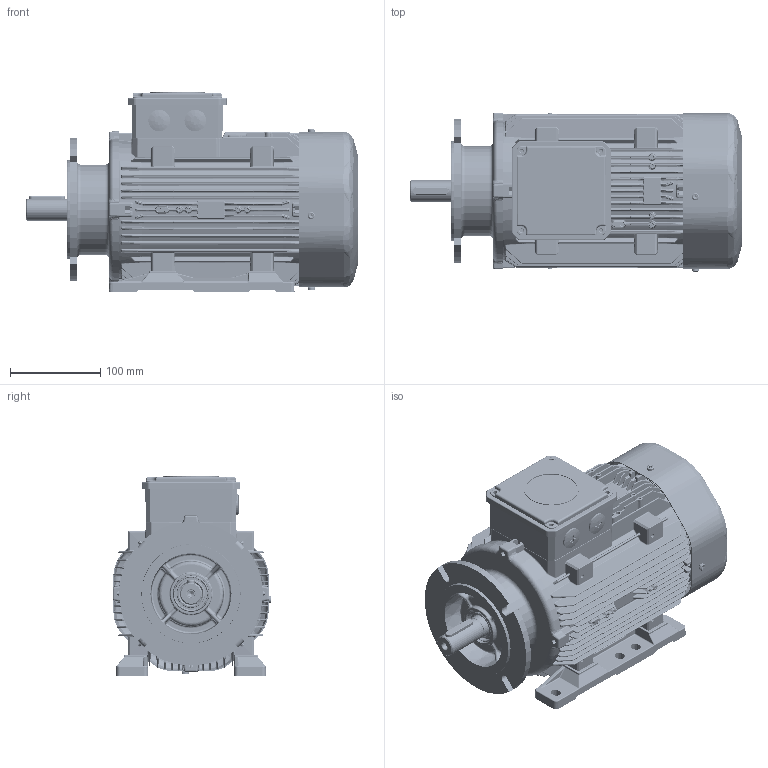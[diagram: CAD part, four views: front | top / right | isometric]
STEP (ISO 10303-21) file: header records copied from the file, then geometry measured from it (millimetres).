
FILE_DESCRIPTION(/* description */ (''),/* implementation_level */ '2;1');
FILE_NAME(/* name */ 'OUTLOOK VIEW QH90 PA B35 - REDUCED FF130 SPL.stp',/* time_stamp */ '2021-09-21T14:21:18+03:00',/* author */ (''),/* organization */ (''),/* preprocessor_version */ 'ST-DEVELOPER v16',/* originating_system */ 'SIEMENS PLM Software NX 11.0',/* authorisation */ '');
FILE_SCHEMA (('AUTOMOTIVE_DESIGN { 1 0 10303 214 3 1 1 1 }'));
Products named in the file (1): 260652D491E0rwly
Bounding box: 367.71 x 176.1 x 221.3 mm (x, y, z)
Volume: 1769564 mm3; surface area: 1025305.7 mm2
Topology: 41 solids, 50 shells, 11047 faces, 26434 edges, 15111 vertices
Faces by surface type: cylinder 3641, bspline 3613, plane 2349, torus 512, sphere 466, cone 386, extrusion 80
Full cylindrical faces by diameter (mm): 2.5 x2, 3.242 x3, 3.4 x48, 4 x4, 4.2 x1, 4.6 x12, 4.722 x3, 5 x31, 5.5 x4, 6.8 x1, 8 x3, 8.4 x1, 9.874 x1, 14 x2, 19.4 x1, 20 x1, 21 x1, 23.38 x2, 23.4 x1, 23.9 x1, 24 x3, 24.4 x2, 25 x5, 25.5 x2, 27.5 x1, 27.94 x1, 29 x2, 30 x1, 34.35 x4, 36.6 x4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
Entity records: 395876 total; most frequent: CARTESIAN_POINT 161971, ORIENTED_EDGE 50296, DIRECTION 44796, EDGE_CURVE 25148, AXIS2_PLACEMENT_3D 18073, VERTEX_POINT 14871, EDGE_LOOP 11977, ADVANCED_FACE 11005
